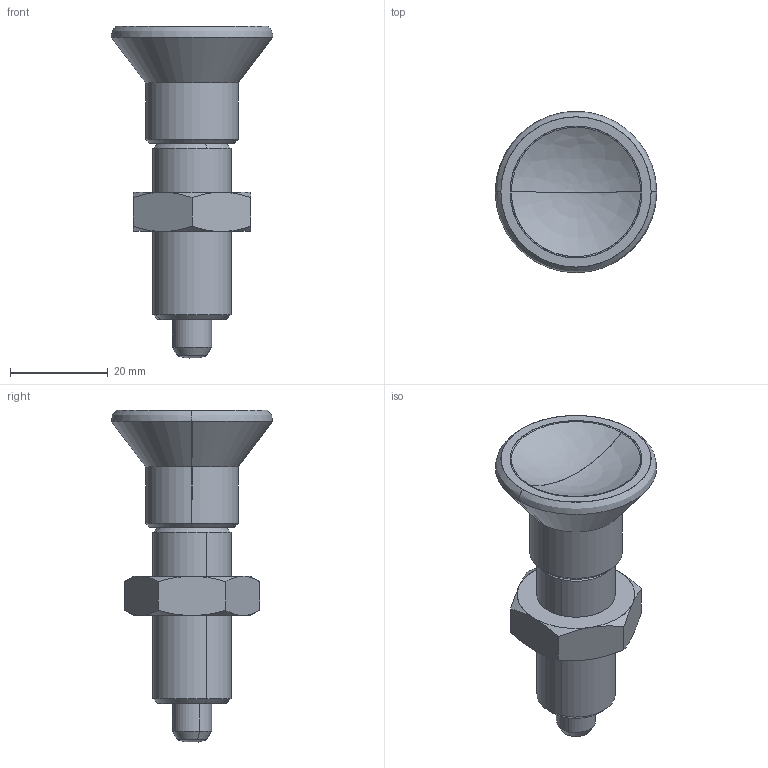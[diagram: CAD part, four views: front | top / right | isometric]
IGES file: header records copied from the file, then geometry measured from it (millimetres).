
Start section: SolidWorks IGES file using analytic representation for surfaces
Global section: file name: X:\11_SW2020-Inv2020\00_全2021-11新製品まで\s\SDXN16W\sdxn16w.IGS; native system: SolidWorks 2020; preprocessor: SolidWorks 2020; author: ImaoCorp; date: 211025.134357; units: millimetre
Bounding box: 33.01 x 33 x 67.87 mm (x, y, z)
Surface area: 6626 mm2 (no closed solid volume)
Topology: 0 solids, 0 shells, 48 faces, 732 edges, 731 vertices
Faces by surface type: revolution 32, bspline 16
